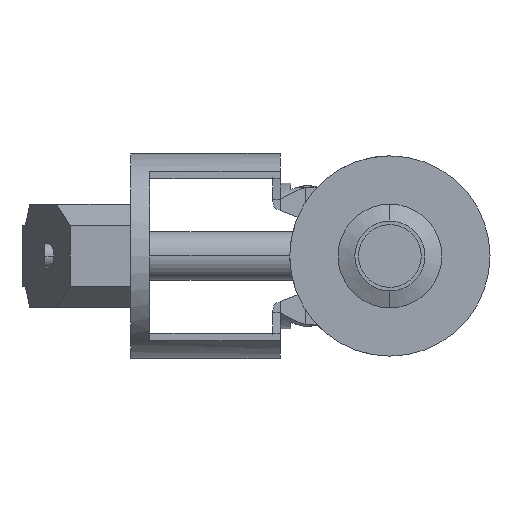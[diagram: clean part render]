
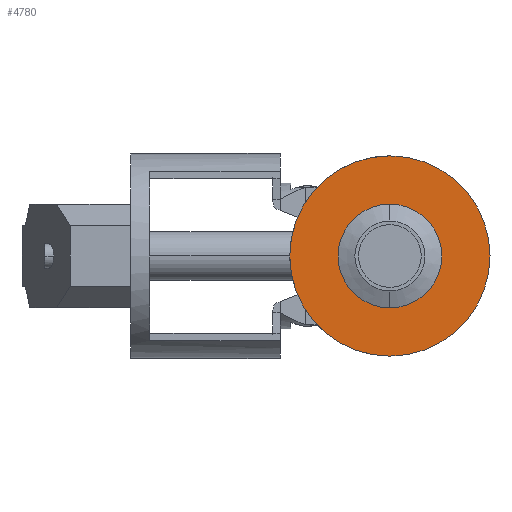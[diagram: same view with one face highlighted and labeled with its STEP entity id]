
A CAD part, left-side view. The second image highlights one B-rep face of the part: STEP entity #4780.
In plain terms, the highlighted planar face has unit normal (-1, 0, 0) as drawn and (1, 0, 0) by its records, which use the part's own axes.
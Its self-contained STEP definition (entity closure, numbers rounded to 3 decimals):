
#2000=CARTESIAN_POINT('',(116.133,39.974,
0.));
#2010=VERTEX_POINT('',#2000);
#2060=CARTESIAN_POINT('',(116.133,61.474,0.));
#2070=DIRECTION('',(1.,0.,0.));
#2080=DIRECTION('',(0.,1.,0.));
#2090=AXIS2_PLACEMENT_3D('',#2060,#2070,#2080);
#2100=CIRCLE('',#2090,21.5);
#2110=CARTESIAN_POINT('',(116.133,82.974,0.));
#2120=VERTEX_POINT('',#2110);
#2130=EDGE_CURVE('',#2120,#2010,#2100,.T.);
#3770=CARTESIAN_POINT('',(116.133,102.974,0.));
#3780=VERTEX_POINT('',#3770);
#3860=CARTESIAN_POINT('',(116.133,19.974,
0.));
#3870=VERTEX_POINT('',#3860);
#3900=CARTESIAN_POINT('',(116.133,61.474,0.));
#3910=DIRECTION('',(1.,0.,0.));
#3920=DIRECTION('',(0.,1.,0.));
#3930=AXIS2_PLACEMENT_3D('',#3900,#3910,#3920);
#3940=CIRCLE('',#3930,41.5);
#3950=EDGE_CURVE('',#3870,#3780,#3940,.T.);
#4630=CARTESIAN_POINT('',(116.133,93.474,0.));
#4640=DIRECTION('',(1.,0.,0.));
#4650=DIRECTION('',(0.,1.,0.));
#4660=AXIS2_PLACEMENT_3D('',#4630,#4640,#4650);
#4670=PLANE('',#4660);
#4680=EDGE_CURVE('',#3780,#3870,#3940,.T.);
#4690=ORIENTED_EDGE('',*,*,#4680,.T.);
#4700=ORIENTED_EDGE('',*,*,#3950,.T.);
#4710=EDGE_LOOP('',(#4700,#4690));
#4720=FACE_OUTER_BOUND('',#4710,.T.);
#4730=ORIENTED_EDGE('',*,*,#2130,.F.);
#4740=EDGE_CURVE('',#2010,#2120,#2100,.T.);
#4750=ORIENTED_EDGE('',*,*,#4740,.F.);
#4760=EDGE_LOOP('',(#4750,#4730));
#4770=FACE_BOUND('',#4760,.T.);
#4780=ADVANCED_FACE('',(#4720,#4770),#4670,.T.);
